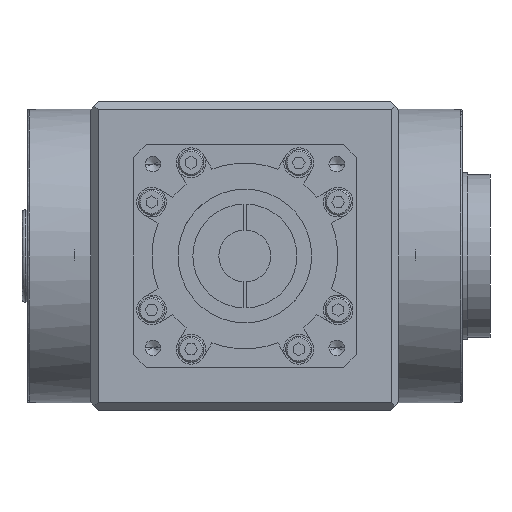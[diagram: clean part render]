
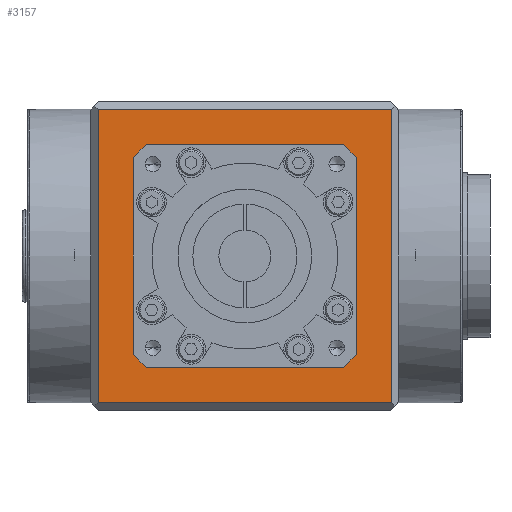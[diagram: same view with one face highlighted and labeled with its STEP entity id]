
A CAD part, front view. The second image highlights one B-rep face of the part: STEP entity #3157.
In plain terms, the highlighted planar face has unit normal (0, -1, 0).
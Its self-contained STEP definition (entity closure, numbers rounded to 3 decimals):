
#538 = ORIENTED_EDGE ( 'NONE', *, *, #14184, .F. ) ;
#1600 = CARTESIAN_POINT ( 'NONE',  ( -41.5, 94.2, -39.5 ) ) ;
#1949 = VERTEX_POINT ( 'NONE', #19137 ) ;
#2148 = VECTOR ( 'NONE', #19068, 1000. ) ;
#2702 = LINE ( 'NONE', #17254, #2148 ) ;
#2879 = EDGE_CURVE ( 'NONE', #11680, #1949, #19931, .T. ) ;
#3157 = ADVANCED_FACE ( 'NONE', ( #8568 ), #9933, .T. ) ;
#3185 = VERTEX_POINT ( 'NONE', #22719 ) ;
#3692 = VECTOR ( 'NONE', #13936, 1000. ) ;
#4173 = EDGE_CURVE ( 'NONE', #3185, #19393, #13882, .T. ) ;
#4771 = EDGE_LOOP ( 'NONE', ( #538, #20923, #5781, #16587 ) ) ;
#5781 = ORIENTED_EDGE ( 'NONE', *, *, #12095, .F. ) ;
#6358 = DIRECTION ( 'NONE',  ( 0., -1., 0. ) ) ;
#8503 = LINE ( 'NONE', #17010, #23011 ) ;
#8568 = FACE_OUTER_BOUND ( 'NONE', #4771, .T. ) ;
#9933 = PLANE ( 'NONE',  #23440 ) ;
#10607 = DIRECTION ( 'NONE',  ( -1., 0., 0. ) ) ;
#11680 = VERTEX_POINT ( 'NONE', #19193 ) ;
#12095 = EDGE_CURVE ( 'NONE', #1949, #3185, #2702, .T. ) ;
#13311 = DIRECTION ( 'NONE',  ( 0., 0., -1. ) ) ;
#13882 = LINE ( 'NONE', #21163, #3692 ) ;
#13936 = DIRECTION ( 'NONE',  ( 1., 0., 0. ) ) ;
#13976 = VECTOR ( 'NONE', #10607, 1000. ) ;
#14184 = EDGE_CURVE ( 'NONE', #19393, #11680, #8503, .T. ) ;
#16587 = ORIENTED_EDGE ( 'NONE', *, *, #2879, .F. ) ;
#17010 = CARTESIAN_POINT ( 'NONE',  ( 39.5, 94.2, -57.15 ) ) ;
#17197 = CARTESIAN_POINT ( 'NONE',  ( 40., 94.2, 0. ) ) ;
#17254 = CARTESIAN_POINT ( 'NONE',  ( -39.5, 94.2, -57.15 ) ) ;
#17919 = CARTESIAN_POINT ( 'NONE',  ( 39.5, 94.2, 39.5 ) ) ;
#19017 = DIRECTION ( 'NONE',  ( 0., 0., -1. ) ) ;
#19068 = DIRECTION ( 'NONE',  ( 0., 0., 1. ) ) ;
#19137 = CARTESIAN_POINT ( 'NONE',  ( -39.5, 94.2, -39.5 ) ) ;
#19193 = CARTESIAN_POINT ( 'NONE',  ( 39.5, 94.2, -39.5 ) ) ;
#19393 = VERTEX_POINT ( 'NONE', #17919 ) ;
#19931 = LINE ( 'NONE', #1600, #13976 ) ;
#20923 = ORIENTED_EDGE ( 'NONE', *, *, #4173, .F. ) ;
#21163 = CARTESIAN_POINT ( 'NONE',  ( -41.5, 94.2, 39.5 ) ) ;
#22719 = CARTESIAN_POINT ( 'NONE',  ( -39.5, 94.2, 39.5 ) ) ;
#23011 = VECTOR ( 'NONE', #13311, 1000. ) ;
#23440 = AXIS2_PLACEMENT_3D ( 'NONE', #17197, #6358, #19017 ) ;
